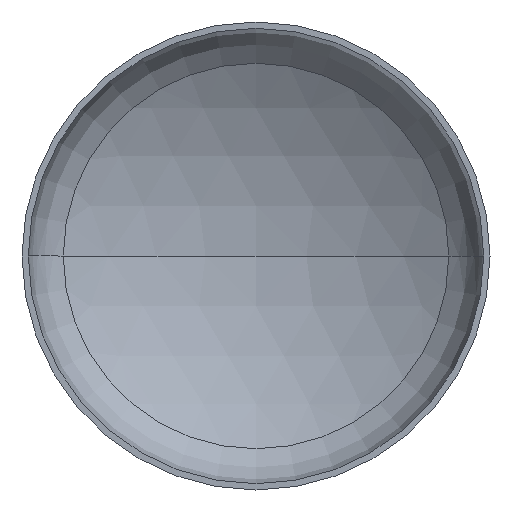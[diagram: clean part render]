
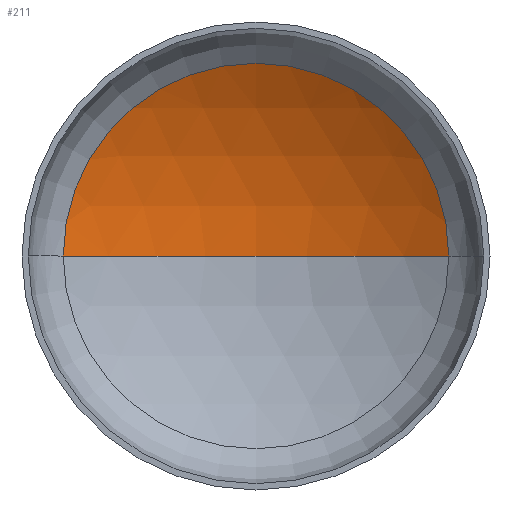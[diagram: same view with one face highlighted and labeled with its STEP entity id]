
A CAD part, front view. The second image highlights one B-rep face of the part: STEP entity #211.
In plain terms, the highlighted spherical face has radius 2080 mm.
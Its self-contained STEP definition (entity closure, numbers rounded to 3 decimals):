
#5 = AXIS2_PLACEMENT_3D ( 'NONE', #151, #389, #283 ) ;
#9 = EDGE_LOOP ( 'NONE', ( #31, #20, #147 ) ) ;
#14 = AXIS2_PLACEMENT_3D ( 'NONE', #238, #170, #174 ) ;
#20 = ORIENTED_EDGE ( 'NONE', *, *, #356, .T. ) ;
#31 = ORIENTED_EDGE ( 'NONE', *, *, #358, .F. ) ;
#47 = AXIS2_PLACEMENT_3D ( 'NONE', #219, #266, #264 ) ;
#51 = VERTEX_POINT ( 'NONE', #292 ) ;
#57 = AXIS2_PLACEMENT_3D ( 'NONE', #285, #82, #189 ) ;
#61 = VERTEX_POINT ( 'NONE', #371 ) ;
#82 = DIRECTION ( 'NONE',  ( 0., -1., 0. ) ) ;
#105 = VERTEX_POINT ( 'NONE', #239 ) ;
#143 = FACE_OUTER_BOUND ( 'NONE', #9, .T. ) ;
#147 = ORIENTED_EDGE ( 'NONE', *, *, #150, .T. ) ;
#150 = EDGE_CURVE ( 'NONE', #105, #51, #163, .T. ) ;
#151 = CARTESIAN_POINT ( 'NONE',  ( 0., -1330.2, 0. ) ) ;
#163 = CIRCLE ( 'NONE', #57, 1070.952 ) ;
#170 = DIRECTION ( 'NONE',  ( 0., 0., -1. ) ) ;
#174 = DIRECTION ( 'NONE',  ( -1., 0., 0. ) ) ;
#189 = DIRECTION ( 'NONE',  ( 1., 0., 0. ) ) ;
#207 = CIRCLE ( 'NONE', #14, 2080. ) ;
#211 = ADVANCED_FACE ( 'NONE', ( #143 ), #230, .F. ) ;
#219 = CARTESIAN_POINT ( 'NONE',  ( 0., -1330.2, 0. ) ) ;
#230 = SPHERICAL_SURFACE ( 'NONE', #47, 2080. ) ;
#238 = CARTESIAN_POINT ( 'NONE',  ( 0., -1330.2, 0. ) ) ;
#239 = CARTESIAN_POINT ( 'NONE',  ( 1070.952, 452.905, 0. ) ) ;
#264 = DIRECTION ( 'NONE',  ( -1., 0., 0. ) ) ;
#266 = DIRECTION ( 'NONE',  ( 0., 0., -1. ) ) ;
#267 = CIRCLE ( 'NONE', #5, 2080. ) ;
#283 = DIRECTION ( 'NONE',  ( 1., 0., 0. ) ) ;
#285 = CARTESIAN_POINT ( 'NONE',  ( 0., 452.905, 0. ) ) ;
#292 = CARTESIAN_POINT ( 'NONE',  ( -1070.952, 452.905, 0. ) ) ;
#356 = EDGE_CURVE ( 'NONE', #61, #105, #207, .T. ) ;
#358 = EDGE_CURVE ( 'NONE', #61, #51, #267, .T. ) ;
#371 = CARTESIAN_POINT ( 'NONE',  ( 0., 749.8, 0. ) ) ;
#389 = DIRECTION ( 'NONE',  ( 0., 0., 1. ) ) ;
